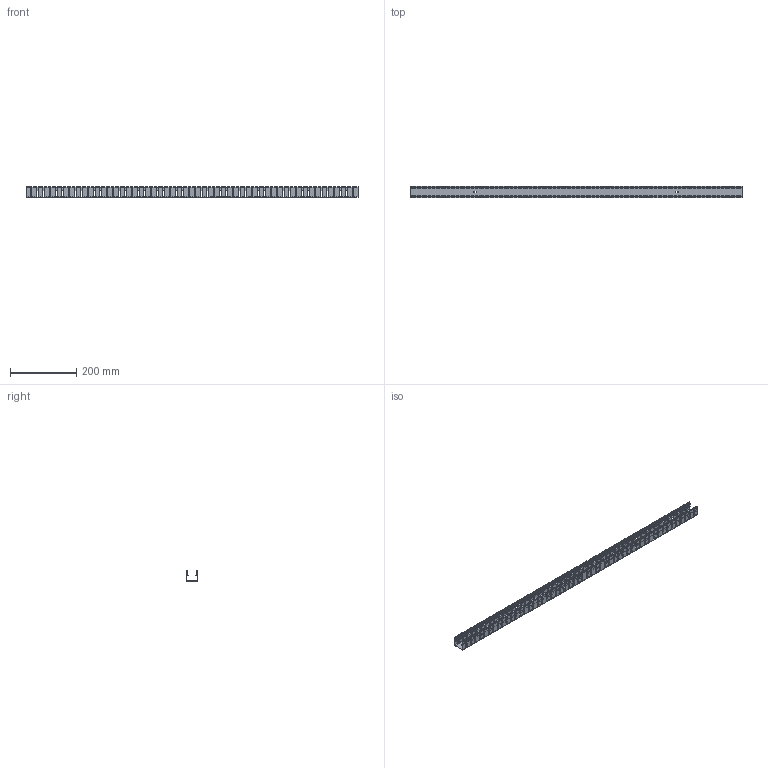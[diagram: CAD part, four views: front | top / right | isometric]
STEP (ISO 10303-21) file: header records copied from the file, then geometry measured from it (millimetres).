
FILE_DESCRIPTION(/* description */ (''),/* implementation_level */ '2;1');
FILE_NAME(/* name */ 'NF_3027_CURVED_PROFILE_TOP_BEND_L1000_R02.step',/* time_stamp */ '2026-07-25T14:44:17+02:00',/* author */ (''),/* organization */ (''),/* preprocessor_version */ 'ST-DEVELOPER v20.1',/* originating_system */ 'Autodesk Translation Framework v15.8.0.0',/* authorisation */ '');
FILE_SCHEMA (('AUTOMOTIVE_DESIGN { 1 0 10303 214 3 1 1 }'));
Products named in the file (1): 2026-07-17-15-40-42-937
Bounding box: 1000 x 35.49 x 30.59 mm (x, y, z)
Volume: 160565.6 mm3; surface area: 254786.6 mm2
Topology: 3 solids, 3 shells, 2431 faces, 7275 edges, 4850 vertices
Faces by surface type: plane 1725, cylinder 642, bspline 64
Entity records: 82567 total; most frequent: CARTESIAN_POINT 16105, ORIENTED_EDGE 14550, DIRECTION 13211, EDGE_CURVE 7275, LINE 5863, VECTOR 5863, VERTEX_POINT 4850, AXIS2_PLACEMENT_3D 3674
